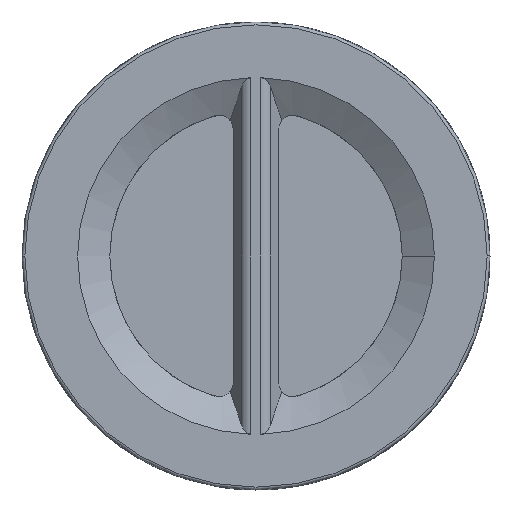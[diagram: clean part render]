
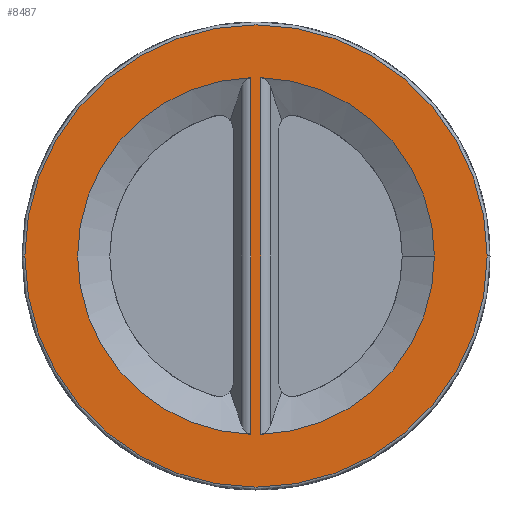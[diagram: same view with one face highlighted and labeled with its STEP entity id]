
A CAD part, front view. The second image highlights one B-rep face of the part: STEP entity #8487.
In plain terms, the highlighted planar face has unit normal (0, -1, 0).
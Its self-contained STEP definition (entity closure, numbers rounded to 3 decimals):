
#32 = AXIS2_PLACEMENT_3D ( 'NONE', #8655, #9549, #11451 ) ;
#155 = ORIENTED_EDGE ( 'NONE', *, *, #5765, .T. ) ;
#158 = VERTEX_POINT ( 'NONE', #454 ) ;
#213 = VECTOR ( 'NONE', #8034, 1000. ) ;
#243 = B_SPLINE_CURVE_WITH_KNOTS ( 'NONE', 3,
 ( #3015, #3859, #1168, #7543 ),
 .UNSPECIFIED., .F., .F.,
 ( 4, 4 ),
 ( 0.001, 0.001 ),
 .UNSPECIFIED. ) ;
#318 = AXIS2_PLACEMENT_3D ( 'NONE', #5552, #6495, #5608 ) ;
#454 = CARTESIAN_POINT ( 'NONE',  ( 3.533, -114.011, -124.951 ) ) ;
#706 = LINE ( 'NONE', #4405, #213 ) ;
#747 = FACE_BOUND ( 'NONE', #1691, .T. ) ;
#788 = AXIS2_PLACEMENT_3D ( 'NONE', #4210, #11460, #7957 ) ;
#889 = CARTESIAN_POINT ( 'NONE',  ( -3.531, -114.011, 124.949 ) ) ;
#947 = DIRECTION ( 'NONE',  ( 1., 0., 0. ) ) ;
#1010 = LINE ( 'NONE', #7154, #10403 ) ;
#1067 = EDGE_CURVE ( 'NONE', #3315, #10777, #5790, .T. ) ;
#1168 = CARTESIAN_POINT ( 'NONE',  ( 3.532, -114.011, -124.951 ) ) ;
#1299 = EDGE_CURVE ( 'NONE', #8027, #3315, #1010, .T. ) ;
#1365 = VERTEX_POINT ( 'NONE', #4590 ) ;
#1406 = ORIENTED_EDGE ( 'NONE', *, *, #3615, .F. ) ;
#1430 = EDGE_CURVE ( 'NONE', #6736, #5869, #2778, .T. ) ;
#1454 = VERTEX_POINT ( 'NONE', #3693 ) ;
#1676 = CARTESIAN_POINT ( 'NONE',  ( -3.533, -114.011, 124.949 ) ) ;
#1691 = EDGE_LOOP ( 'NONE', ( #7333, #1863, #5423, #7277, #1406 ) ) ;
#1863 = ORIENTED_EDGE ( 'NONE', *, *, #1067, .T. ) ;
#1926 = CIRCLE ( 'NONE', #5363, 162. ) ;
#1975 = B_SPLINE_CURVE_WITH_KNOTS ( 'NONE', 3,
 ( #1676, #10218, #889, #8980 ),
 .UNSPECIFIED., .F., .F.,
 ( 4, 4 ),
 ( 0.012, 0.012 ),
 .UNSPECIFIED. ) ;
#1996 = EDGE_LOOP ( 'NONE', ( #10058, #4278, #9100, #10775 ) ) ;
#2050 = DIRECTION ( 'NONE',  ( 1., 0., 0. ) ) ;
#2778 = CIRCLE ( 'NONE', #4898, 125. ) ;
#2892 = EDGE_CURVE ( 'NONE', #1365, #10777, #5265, .T. ) ;
#3015 = CARTESIAN_POINT ( 'NONE',  ( 3.53, -114.011, -124.951 ) ) ;
#3315 = VERTEX_POINT ( 'NONE', #4275 ) ;
#3577 = DIRECTION ( 'NONE',  ( 0., 0., 1. ) ) ;
#3615 = EDGE_CURVE ( 'NONE', #8027, #158, #243, .T. ) ;
#3693 = CARTESIAN_POINT ( 'NONE',  ( -3.53, -114.011, 124.949 ) ) ;
#3859 = CARTESIAN_POINT ( 'NONE',  ( 3.531, -114.011, -124.951 ) ) ;
#3998 = DIRECTION ( 'NONE',  ( 0., -1., 0. ) ) ;
#4181 = DIRECTION ( 'NONE',  ( 0., -1., 0. ) ) ;
#4210 = CARTESIAN_POINT ( 'NONE',  ( 0., -114.011, 0. ) ) ;
#4268 = EDGE_LOOP ( 'NONE', ( #155, #5456 ) ) ;
#4275 = CARTESIAN_POINT ( 'NONE',  ( 3.53, -114.011, 124.951 ) ) ;
#4278 = ORIENTED_EDGE ( 'NONE', *, *, #5294, .F. ) ;
#4405 = CARTESIAN_POINT ( 'NONE',  ( -3.53, -114.011, -500000. ) ) ;
#4590 = CARTESIAN_POINT ( 'NONE',  ( 125.038, -114.011, 0. ) ) ;
#4898 = AXIS2_PLACEMENT_3D ( 'NONE', #6368, #6314, #947 ) ;
#5170 = CIRCLE ( 'NONE', #32, 162. ) ;
#5265 = CIRCLE ( 'NONE', #318, 125. ) ;
#5294 = EDGE_CURVE ( 'NONE', #9778, #6736, #10283, .T. ) ;
#5363 = AXIS2_PLACEMENT_3D ( 'NONE', #8808, #4181, #10709 ) ;
#5423 = ORIENTED_EDGE ( 'NONE', *, *, #2892, .F. ) ;
#5456 = ORIENTED_EDGE ( 'NONE', *, *, #8727, .T. ) ;
#5507 = EDGE_CURVE ( 'NONE', #5869, #1454, #706, .T. ) ;
#5552 = CARTESIAN_POINT ( 'NONE',  ( 0.038, -114.011, 0. ) ) ;
#5608 = DIRECTION ( 'NONE',  ( 1., 0., 0. ) ) ;
#5765 = EDGE_CURVE ( 'NONE', #9698, #7506, #5170, .T. ) ;
#5790 = B_SPLINE_CURVE_WITH_KNOTS ( 'NONE', 3,
 ( #8877, #6994, #10604, #6210 ),
 .UNSPECIFIED., .F., .F.,
 ( 4, 4 ),
 ( 0.001, 0.001 ),
 .UNSPECIFIED. ) ;
#5857 = CARTESIAN_POINT ( 'NONE',  ( -3.533, -114.011, 124.949 ) ) ;
#5869 = VERTEX_POINT ( 'NONE', #10850 ) ;
#6210 = CARTESIAN_POINT ( 'NONE',  ( 3.533, -114.011, 124.951 ) ) ;
#6314 = DIRECTION ( 'NONE',  ( 0., -1., 0. ) ) ;
#6351 = CARTESIAN_POINT ( 'NONE',  ( -3.533, -114.011, -124.949 ) ) ;
#6368 = CARTESIAN_POINT ( 'NONE',  ( 0.038, -114.011, 0. ) ) ;
#6495 = DIRECTION ( 'NONE',  ( 0., -1., 0. ) ) ;
#6736 = VERTEX_POINT ( 'NONE', #6351 ) ;
#6902 = EDGE_CURVE ( 'NONE', #158, #1365, #7939, .T. ) ;
#6994 = CARTESIAN_POINT ( 'NONE',  ( 3.531, -114.011, 124.951 ) ) ;
#7154 = CARTESIAN_POINT ( 'NONE',  ( 3.53, -114.011, -500000. ) ) ;
#7277 = ORIENTED_EDGE ( 'NONE', *, *, #6902, .F. ) ;
#7333 = ORIENTED_EDGE ( 'NONE', *, *, #1299, .T. ) ;
#7506 = VERTEX_POINT ( 'NONE', #9131 ) ;
#7543 = CARTESIAN_POINT ( 'NONE',  ( 3.533, -114.011, -124.951 ) ) ;
#7894 = PLANE ( 'NONE',  #788 ) ;
#7939 = CIRCLE ( 'NONE', #8690, 125. ) ;
#7957 = DIRECTION ( 'NONE',  ( -1., 0., 0. ) ) ;
#8027 = VERTEX_POINT ( 'NONE', #10416 ) ;
#8034 = DIRECTION ( 'NONE',  ( 0., 0., 1. ) ) ;
#8173 = CARTESIAN_POINT ( 'NONE',  ( -161.962, -114.011, 0. ) ) ;
#8205 = EDGE_CURVE ( 'NONE', #9778, #1454, #1975, .T. ) ;
#8398 = CARTESIAN_POINT ( 'NONE',  ( 0.038, -114.011, 0. ) ) ;
#8487 = ADVANCED_FACE ( 'NONE', ( #10801, #747, #9852 ), #7894, .F. ) ;
#8655 = CARTESIAN_POINT ( 'NONE',  ( 0.038, -114.011, 0. ) ) ;
#8690 = AXIS2_PLACEMENT_3D ( 'NONE', #11026, #9300, #2050 ) ;
#8727 = EDGE_CURVE ( 'NONE', #7506, #9698, #1926, .T. ) ;
#8808 = CARTESIAN_POINT ( 'NONE',  ( 0.038, -114.011, 0. ) ) ;
#8877 = CARTESIAN_POINT ( 'NONE',  ( 3.53, -114.011, 124.951 ) ) ;
#8980 = CARTESIAN_POINT ( 'NONE',  ( -3.53, -114.011, 124.949 ) ) ;
#9100 = ORIENTED_EDGE ( 'NONE', *, *, #8205, .T. ) ;
#9131 = CARTESIAN_POINT ( 'NONE',  ( 162.038, -114.011, 0. ) ) ;
#9300 = DIRECTION ( 'NONE',  ( 0., -1., 0. ) ) ;
#9549 = DIRECTION ( 'NONE',  ( 0., -1., 0. ) ) ;
#9698 = VERTEX_POINT ( 'NONE', #8173 ) ;
#9778 = VERTEX_POINT ( 'NONE', #5857 ) ;
#9852 = FACE_BOUND ( 'NONE', #1996, .T. ) ;
#10058 = ORIENTED_EDGE ( 'NONE', *, *, #1430, .F. ) ;
#10175 = DIRECTION ( 'NONE',  ( 1., 0., 0. ) ) ;
#10218 = CARTESIAN_POINT ( 'NONE',  ( -3.532, -114.011, 124.949 ) ) ;
#10283 = CIRCLE ( 'NONE', #11420, 125. ) ;
#10403 = VECTOR ( 'NONE', #3577, 1000. ) ;
#10416 = CARTESIAN_POINT ( 'NONE',  ( 3.53, -114.011, -124.951 ) ) ;
#10604 = CARTESIAN_POINT ( 'NONE',  ( 3.532, -114.011, 124.951 ) ) ;
#10709 = DIRECTION ( 'NONE',  ( -1., 0., 0. ) ) ;
#10775 = ORIENTED_EDGE ( 'NONE', *, *, #5507, .F. ) ;
#10777 = VERTEX_POINT ( 'NONE', #11723 ) ;
#10801 = FACE_OUTER_BOUND ( 'NONE', #4268, .T. ) ;
#10850 = CARTESIAN_POINT ( 'NONE',  ( -3.53, -114.011, -124.949 ) ) ;
#11026 = CARTESIAN_POINT ( 'NONE',  ( 0.038, -114.011, 0. ) ) ;
#11420 = AXIS2_PLACEMENT_3D ( 'NONE', #8398, #3998, #10175 ) ;
#11451 = DIRECTION ( 'NONE',  ( -1., 0., 0. ) ) ;
#11460 = DIRECTION ( 'NONE',  ( 0., 1., 0. ) ) ;
#11723 = CARTESIAN_POINT ( 'NONE',  ( 3.533, -114.011, 124.951 ) ) ;
